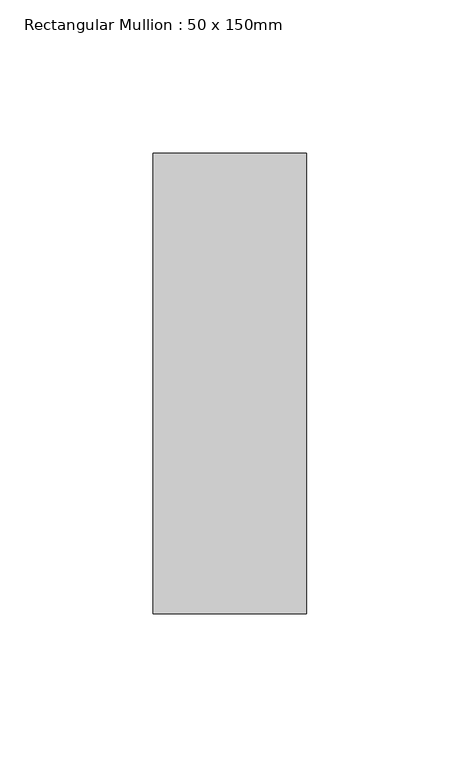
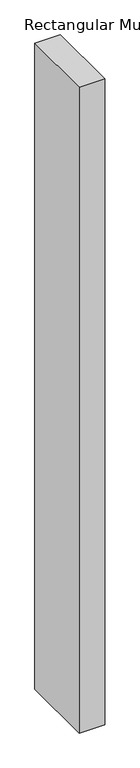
"""IFC4 building model written with IfcOpenShell, lengths in millimetres: member geometry, Rectangular Mullion : 50 x 150mm."""

from ifc_helpers import new_model, si_unit, frame, origin, place, context, project, spatial, polyline, outline, extrude, source, transform, mapped, element, save


def rectangular_mullion_50_x_150mm_d0b908b0(model_context):
    return source(origin(), model_context, "Body", "SweptSolid", [
        extrude(outline(polyline([(25.0, 75.0), (25.0, -75.0), (-25.0, -75.0), (-25.0, 75.0), (25.0, 75.0)])), frame((0.0, 0.0, -1335.7699382), z_axis=(0.0, 0.0, 1.0), x_axis=(1.0, 0.0, 0.0)), (0.0, 0.0, 1.0), 1335.7699382),
    ])


if __name__ == "__main__":
    model = new_model("IFC4")
    model_context = context("Model", 3, world=origin())
    ifc_project = project(units=[si_unit("LENGTHUNIT", "METRE", prefix="MILLI")], contexts=[model_context])
    site = spatial("IfcSite", under=ifc_project)
    building = spatial("IfcBuilding", under=site)
    placement = place(None, origin())
    rectangular_mullion_50_x_150mm_shape = rectangular_mullion_50_x_150mm_d0b908b0(model_context)
    element("IfcMember", 1, ObjectType="Rectangular Mullion : 50 x 150mm", at=placement, inside=building, context=model_context, shape_type="MappedRepresentation", body=[
        mapped(rectangular_mullion_50_x_150mm_shape, transform((0.0, 0.0, 0.0), x_axis=(1.0, 0.0, 0.0), y_axis=(0.0, 1.0, 0.0), z_axis=(0.0, 0.0, 1.0))),
    ])
    save(model, "model.ifc")
